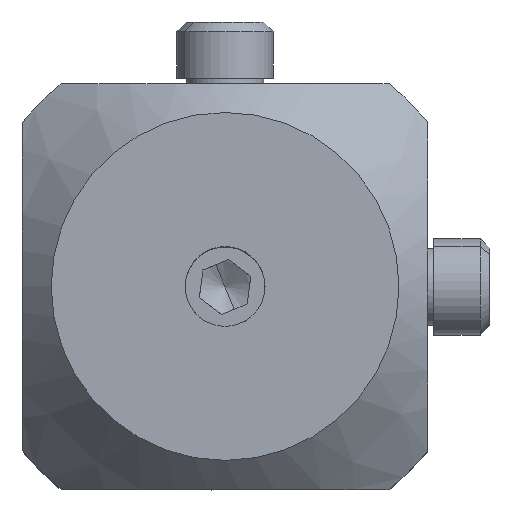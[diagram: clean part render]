
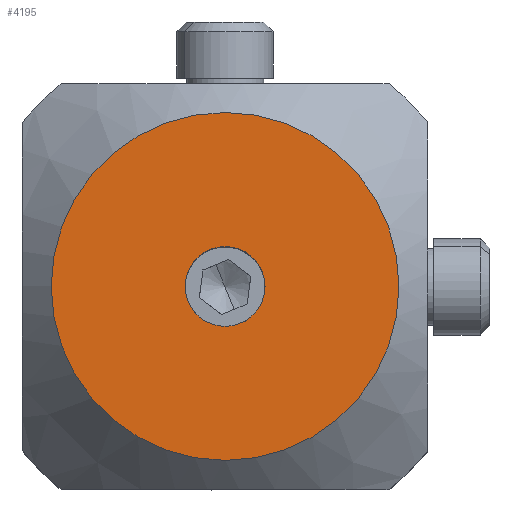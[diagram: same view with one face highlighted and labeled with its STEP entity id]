
A CAD part, top view. The second image highlights one B-rep face of the part: STEP entity #4195.
In plain terms, the highlighted planar face has unit normal (0, 0, 1).
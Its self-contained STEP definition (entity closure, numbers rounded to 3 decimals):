
#465=PLANE('',#4399);
#1582=VERTEX_POINT('',#6995);
#1599=VERTEX_POINT('',#7124);
#1636=CIRCLE('',#4376,2.067);
#1649=CIRCLE('',#4396,9.);
#2204=EDGE_CURVE('',#1582,#1582,#1636,.T.);
#2233=EDGE_CURVE('',#1599,#1599,#1649,.T.);
#3397=ORIENTED_EDGE('',*,*,#2204,.T.);
#3398=ORIENTED_EDGE('',*,*,#2233,.T.);
#3679=EDGE_LOOP('',(#3397));
#3680=EDGE_LOOP('',(#3398));
#3960=FACE_BOUND('',#3679,.T.);
#3961=FACE_BOUND('',#3680,.T.);
#4195=ADVANCED_FACE('',(#3960,#3961),#465,.T.);
#4376=AXIS2_PLACEMENT_3D('',#6994,#4999,#5000);
#4396=AXIS2_PLACEMENT_3D('',#7123,#5044,#5045);
#4399=AXIS2_PLACEMENT_3D('',#7127,#5048,$);
#4999=DIRECTION('',(0.,0.,-1.));
#5000=DIRECTION('',(-2.067,0.,0.));
#5044=DIRECTION('',(0.,0.,1.));
#5045=DIRECTION('',(-9.,0.,0.));
#5048=DIRECTION('',(0.,0.,1.));
#6994=CARTESIAN_POINT('',(0.,0.,10.5));
#6995=CARTESIAN_POINT('',(-2.067,0.,10.5));
#7123=CARTESIAN_POINT('',(0.,0.,10.5));
#7124=CARTESIAN_POINT('',(-9.,0.,10.5));
#7127=CARTESIAN_POINT('',(0.,0.,10.5));
